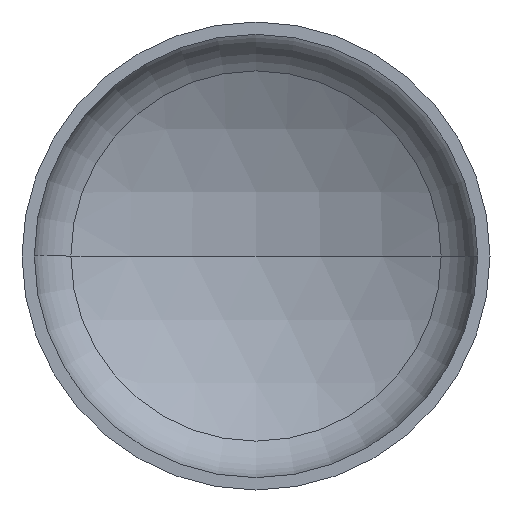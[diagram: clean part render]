
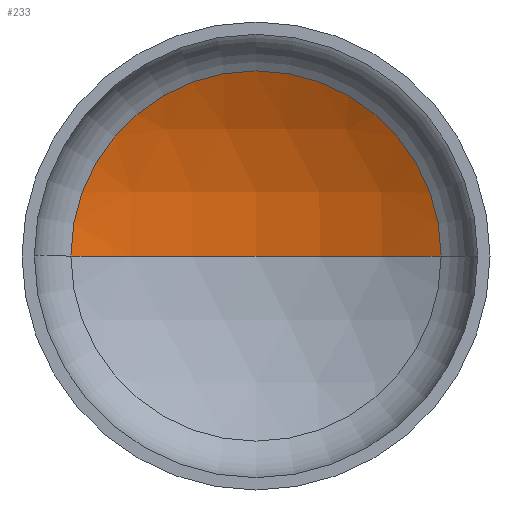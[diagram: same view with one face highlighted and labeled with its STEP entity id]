
A CAD part, front view. The second image highlights one B-rep face of the part: STEP entity #233.
In plain terms, the highlighted spherical face has radius 880 mm.
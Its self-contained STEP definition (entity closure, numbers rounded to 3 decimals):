
#2 = DIRECTION ( 'NONE',  ( -1., 0., 0. ) ) ;
#11 = AXIS2_PLACEMENT_3D ( 'NONE', #281, #247, #189 ) ;
#14 = DIRECTION ( 'NONE',  ( 1., 0., 0. ) ) ;
#15 = DIRECTION ( 'NONE',  ( 0., 0., 1. ) ) ;
#19 = EDGE_LOOP ( 'NONE', ( #360, #124, #170 ) ) ;
#20 = CARTESIAN_POINT ( 'NONE',  ( 0., -527.17, 0. ) ) ;
#22 = AXIS2_PLACEMENT_3D ( 'NONE', #20, #15, #14 ) ;
#27 = AXIS2_PLACEMENT_3D ( 'NONE', #308, #166, #2 ) ;
#31 = AXIS2_PLACEMENT_3D ( 'NONE', #224, #225, #215 ) ;
#76 = EDGE_CURVE ( 'NONE', #236, #87, #219, .T. ) ;
#78 = EDGE_CURVE ( 'NONE', #156, #236, #266, .T. ) ;
#79 = EDGE_CURVE ( 'NONE', #156, #87, #210, .T. ) ;
#87 = VERTEX_POINT ( 'NONE', #133 ) ;
#99 = SPHERICAL_SURFACE ( 'NONE', #11, 880. ) ;
#124 = ORIENTED_EDGE ( 'NONE', *, *, #78, .T. ) ;
#133 = CARTESIAN_POINT ( 'NONE',  ( -435.042, 237.773, 0. ) ) ;
#156 = VERTEX_POINT ( 'NONE', #400 ) ;
#166 = DIRECTION ( 'NONE',  ( 0., 0., -1. ) ) ;
#170 = ORIENTED_EDGE ( 'NONE', *, *, #76, .T. ) ;
#189 = DIRECTION ( 'NONE',  ( -1., 0., 0. ) ) ;
#190 = CARTESIAN_POINT ( 'NONE',  ( 435.042, 237.773, 0. ) ) ;
#210 = CIRCLE ( 'NONE', #22, 880. ) ;
#215 = DIRECTION ( 'NONE',  ( 1., 0., 0. ) ) ;
#219 = CIRCLE ( 'NONE', #31, 435.042 ) ;
#224 = CARTESIAN_POINT ( 'NONE',  ( 0., 237.773, 0. ) ) ;
#225 = DIRECTION ( 'NONE',  ( 0., -1., 0. ) ) ;
#233 = ADVANCED_FACE ( 'NONE', ( #256 ), #99, .F. ) ;
#236 = VERTEX_POINT ( 'NONE', #190 ) ;
#247 = DIRECTION ( 'NONE',  ( 0., 0., -1. ) ) ;
#256 = FACE_OUTER_BOUND ( 'NONE', #19, .T. ) ;
#266 = CIRCLE ( 'NONE', #27, 880. ) ;
#281 = CARTESIAN_POINT ( 'NONE',  ( 0., -527.17, 0. ) ) ;
#308 = CARTESIAN_POINT ( 'NONE',  ( 0., -527.17, 0. ) ) ;
#360 = ORIENTED_EDGE ( 'NONE', *, *, #79, .F. ) ;
#400 = CARTESIAN_POINT ( 'NONE',  ( 0., 352.83, 0. ) ) ;
